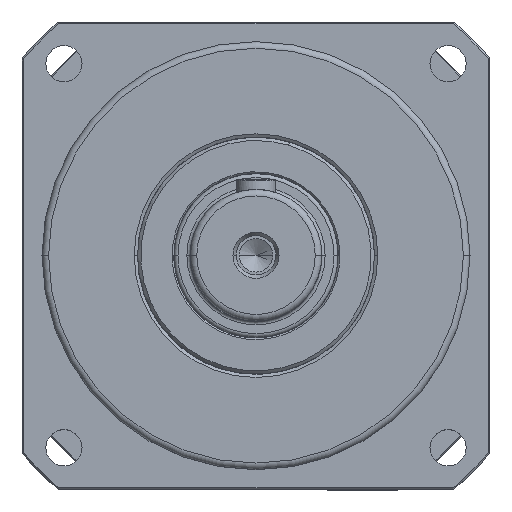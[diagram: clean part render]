
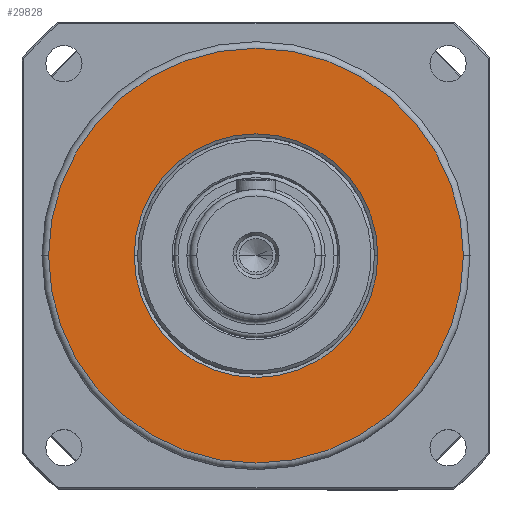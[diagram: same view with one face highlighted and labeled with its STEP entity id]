
A CAD part, top view. The second image highlights one B-rep face of the part: STEP entity #29828.
In plain terms, the highlighted planar face has unit normal (0, 0, 1).
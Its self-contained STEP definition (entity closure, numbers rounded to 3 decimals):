
#1029 = DIRECTION ( 'NONE',  ( 1., 0., 0. ) ) ;
#1134 = AXIS2_PLACEMENT_3D ( 'NONE', #12466, #7956, #1029 ) ;
#1136 = AXIS2_PLACEMENT_3D ( 'NONE', #9967, #19149, #16885 ) ;
#3067 = DIRECTION ( 'NONE',  ( 1., 0., 0. ) ) ;
#3770 = PLANE ( 'NONE',  #27583 ) ;
#4305 = ORIENTED_EDGE ( 'NONE', *, *, #6059, .T. ) ;
#5061 = CARTESIAN_POINT ( 'NONE',  ( 37., 0., 15. ) ) ;
#6023 = FACE_BOUND ( 'NONE', #19685, .T. ) ;
#6059 = EDGE_CURVE ( 'NONE', #13745, #12196, #18732, .T. ) ;
#7956 = DIRECTION ( 'NONE',  ( 0., 0., -1. ) ) ;
#8819 = EDGE_CURVE ( 'NONE', #14545, #14480, #24173, .T. ) ;
#9967 = CARTESIAN_POINT ( 'NONE',  ( 0., 0., 15. ) ) ;
#10204 = ORIENTED_EDGE ( 'NONE', *, *, #13675, .T. ) ;
#10206 = AXIS2_PLACEMENT_3D ( 'NONE', #11367, #22982, #11651 ) ;
#10830 = DIRECTION ( 'NONE',  ( 1., 0., 0. ) ) ;
#11148 = CARTESIAN_POINT ( 'NONE',  ( -37., 0., 15. ) ) ;
#11367 = CARTESIAN_POINT ( 'NONE',  ( 0., 0., 15. ) ) ;
#11651 = DIRECTION ( 'NONE',  ( 1., 0., 0. ) ) ;
#11700 = CIRCLE ( 'NONE', #1136, 63. ) ;
#12196 = VERTEX_POINT ( 'NONE', #5061 ) ;
#12466 = CARTESIAN_POINT ( 'NONE',  ( 0., 0., 15. ) ) ;
#13675 = EDGE_CURVE ( 'NONE', #14480, #14545, #11700, .T. ) ;
#13745 = VERTEX_POINT ( 'NONE', #11148 ) ;
#14106 = CIRCLE ( 'NONE', #1134, 37. ) ;
#14480 = VERTEX_POINT ( 'NONE', #15088 ) ;
#14545 = VERTEX_POINT ( 'NONE', #21036 ) ;
#15088 = CARTESIAN_POINT ( 'NONE',  ( -63., 0., 15. ) ) ;
#15194 = DIRECTION ( 'NONE',  ( 0., 0., 1. ) ) ;
#16553 = ORIENTED_EDGE ( 'NONE', *, *, #18277, .T. ) ;
#16746 = DIRECTION ( 'NONE',  ( 0., 0., -1. ) ) ;
#16798 = AXIS2_PLACEMENT_3D ( 'NONE', #24322, #16746, #3067 ) ;
#16885 = DIRECTION ( 'NONE',  ( 1., 0., 0. ) ) ;
#18277 = EDGE_CURVE ( 'NONE', #12196, #13745, #14106, .T. ) ;
#18732 = CIRCLE ( 'NONE', #16798, 37. ) ;
#19149 = DIRECTION ( 'NONE',  ( 0., 0., 1. ) ) ;
#19685 = EDGE_LOOP ( 'NONE', ( #16553, #4305 ) ) ;
#20182 = FACE_OUTER_BOUND ( 'NONE', #27891, .T. ) ;
#21036 = CARTESIAN_POINT ( 'NONE',  ( 63., 0., 15. ) ) ;
#21820 = ORIENTED_EDGE ( 'NONE', *, *, #8819, .T. ) ;
#22982 = DIRECTION ( 'NONE',  ( 0., 0., 1. ) ) ;
#24173 = CIRCLE ( 'NONE', #10206, 63. ) ;
#24322 = CARTESIAN_POINT ( 'NONE',  ( 0., 0., 15. ) ) ;
#27583 = AXIS2_PLACEMENT_3D ( 'NONE', #29209, #15194, #10830 ) ;
#27891 = EDGE_LOOP ( 'NONE', ( #21820, #10204 ) ) ;
#29209 = CARTESIAN_POINT ( 'NONE',  ( 0., 0., 15. ) ) ;
#29828 = ADVANCED_FACE ( 'NONE', ( #6023, #20182 ), #3770, .T. ) ;
